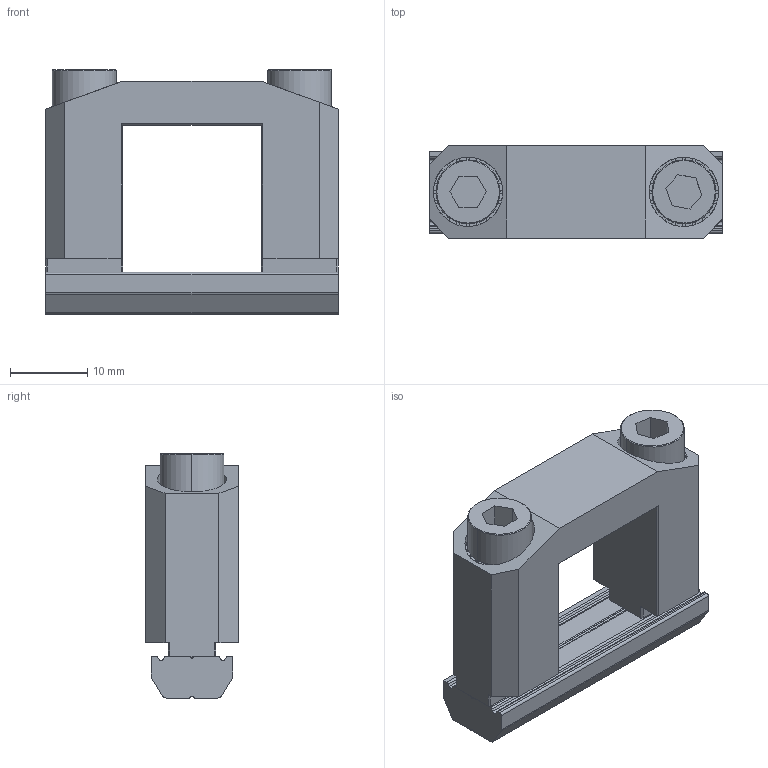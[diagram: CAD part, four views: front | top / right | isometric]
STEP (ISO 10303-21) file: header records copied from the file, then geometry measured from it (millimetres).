
FILE_DESCRIPTION (( 'STEP AP214' ), '1' );
FILE_NAME ('SMBB-1818T.STEP', '2022-12-08T05:41:17', ( '' ), ( '' ), 'SwSTEP 2.0', 'SolidWorks 2018', '' );
FILE_SCHEMA (( 'AUTOMOTIVE_DESIGN' ));
Length unit declared in the file: millimetre
Products named in the file (5): PTN-M5P28; PTC-M5L25; SMBB-1818; SMBB-1818T; PTS-M5
Assembly tree (6 placements, depth 2):
  SMBB-1818T
    SMBB-1818
    PTC-M5L25  x2
    PTS-M5  x2
    PTN-M5P28
Bounding box: 38 x 12 x 31.65 mm (x, y, z)
Volume: 8378.4 mm3; surface area: 6483.4 mm2
Topology: 6 solids, 6 shells, 485 faces, 1401 edges, 926 vertices
Faces by surface type: plane 408, cylinder 57, cone 20
Entity records: 10191 total; most frequent: CARTESIAN_POINT 1905, ORIENTED_EDGE 1734, DIRECTION 1679, EDGE_CURVE 867, VERTEX_POINT 572, LINE 571, VECTOR 571, AXIS2_PLACEMENT_3D 554
